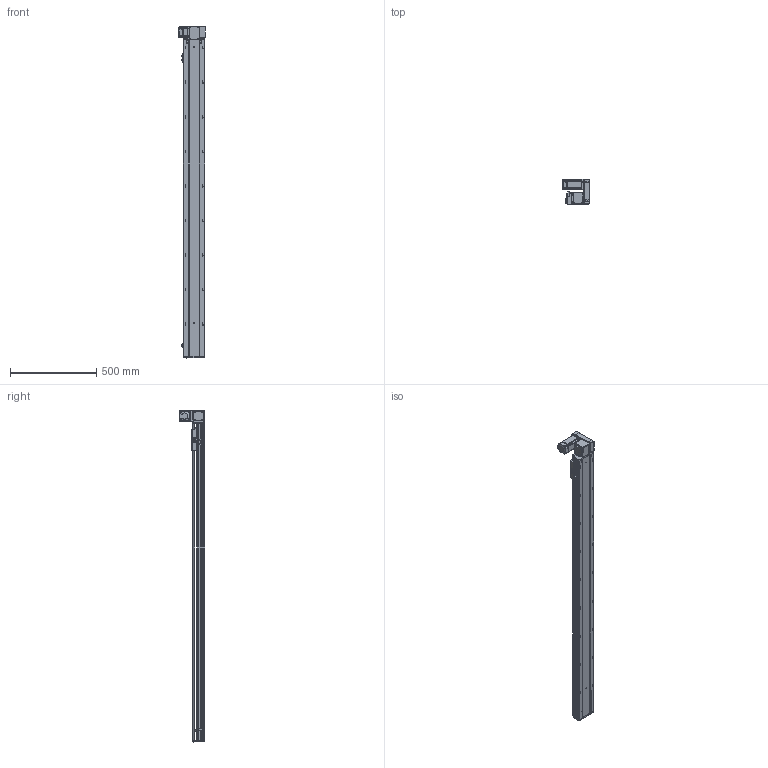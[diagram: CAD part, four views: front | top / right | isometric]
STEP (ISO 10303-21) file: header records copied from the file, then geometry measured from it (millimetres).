
FILE_DESCRIPTION (( 'STEP AP203' ), '1' );
FILE_NAME ('RY120-T-300-UR.SLDASM_1600.step', '2021-03-01T05:57:40', ( '盈信电脑' ), ( '东莞市道滘镇水果街19号' ), 'SwSTEP 2.0', 'SolidWorks 2012', '' );
FILE_SCHEMA (( 'CONFIG_CONTROL_DESIGN' ));
Length unit declared in the file: millimetre
Products named in the file (17): RY120-T萇儂欶; RY120-T主同步轮轴承压盖; RY120-T-300-UR.SLDASM_1600; 15; 滅袉蝶18-10; RY120-T蹟翐M4; RY120-T翋肮祭謫裔啣; RY120-T肮祭湍揤踡輸2; RY120-T萇儂假蚾啣; RY120-T翋肮祭盓傅釱; RY120-T肮祭湍揤踡輸1; RY120外置感应片(140共用）; RY120綴裔啣; 覜茼ん672; RY120-T-300-UR倰第奻裔啣_1600; RY120肮祭湍臏賑輸; RY120-T-300-UR倰第菁釱_1600
Assembly tree (22 placements, depth 2):
  RY120-T-300-UR.SLDASM_1600
    RY120-T-300-UR倰第菁釱_1600
    RY120-T-300-UR倰第奻裔啣_1600
    RY120肮祭湍臏賑輸
    RY120綴裔啣
    覜茼ん672  x3
    RY120外置感应片(140共用）
    RY120-T肮祭湍揤踡輸1
    RY120-T肮祭湍揤踡輸2
    RY120-T翋肮祭盓傅釱
    RY120-T萇儂假蚾啣
    滅袉蝶18-10  x2
    RY120-T翋肮祭謫裔啣
    15
    RY120-T蹟翐M4  x4
    RY120-T萇儂欶
    RY120-T主同步轮轴承压盖
Bounding box: 155.5 x 146 x 1921 mm (x, y, z)
Volume: 4931577.4 mm3; surface area: 1870950 mm2
Topology: 23 solids, 23 shells, 2976 faces, 8124 edges, 5186 vertices
Faces by surface type: plane 1432, cylinder 1162, cone 293, bspline 89
Entity records: 95093 total; most frequent: CARTESIAN_POINT 24480, ORIENTED_EDGE 14592, DIRECTION 13806, EDGE_CURVE 7296, VERTEX_POINT 4773, AXIS2_PLACEMENT_3D 4663, VECTOR 4480, LINE 4480
